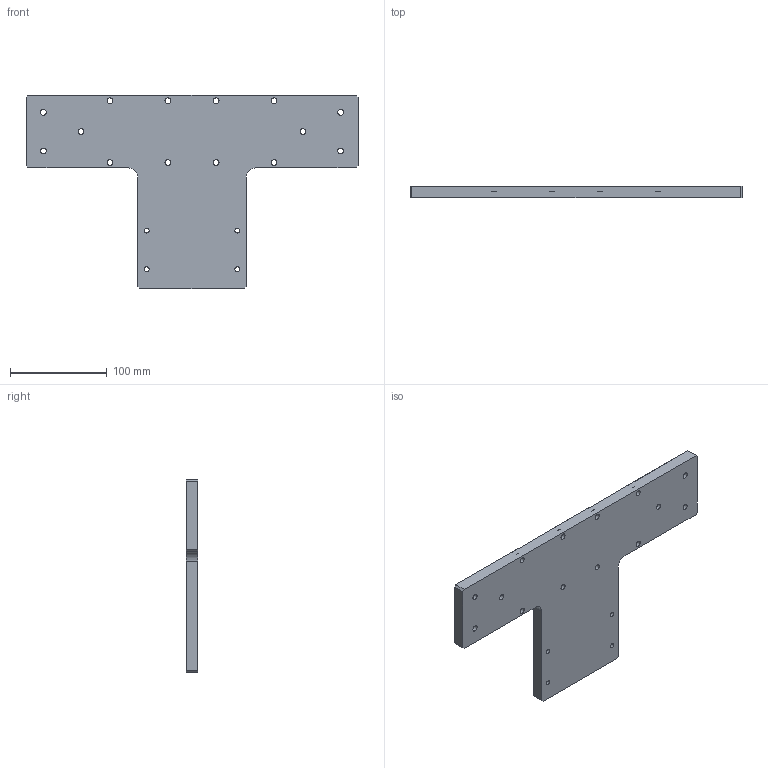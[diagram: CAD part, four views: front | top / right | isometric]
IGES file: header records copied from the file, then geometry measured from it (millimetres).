
Start section:  PTC IGES file: n80-n80m-ft.igs
Global section: file name: n80-n80m-ft.igs; native system: Pro/ENGINEER by Parametric Technology Corporation; preprocessor: 2008230; author: Owner; organization: Unknown; date: 20121212.125104; units: millimetre
Bounding box: 344 x 12 x 200 mm (x, y, z)
Surface area: 96821.8 mm2 (no closed solid volume)
Topology: 0 solids, 0 shells, 96 faces, 504 edges, 502 vertices
Faces by surface type: revolution 66, bspline 30
